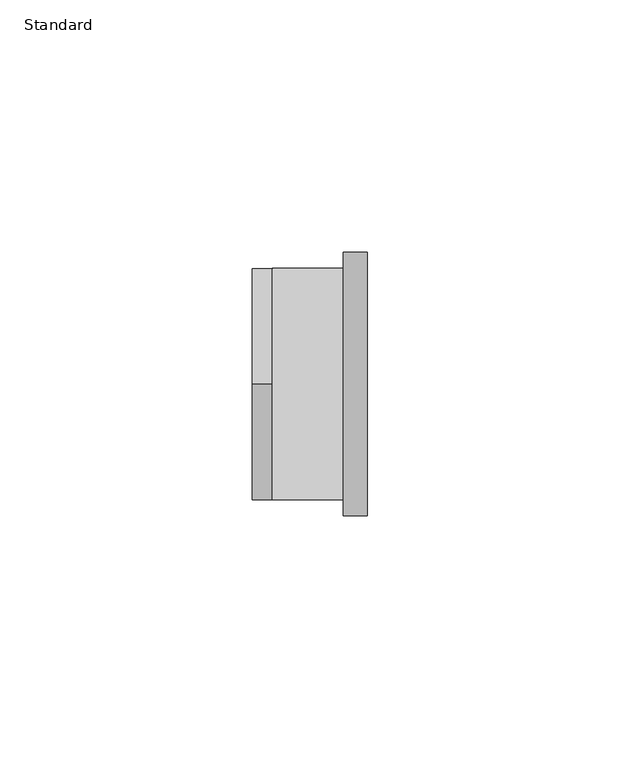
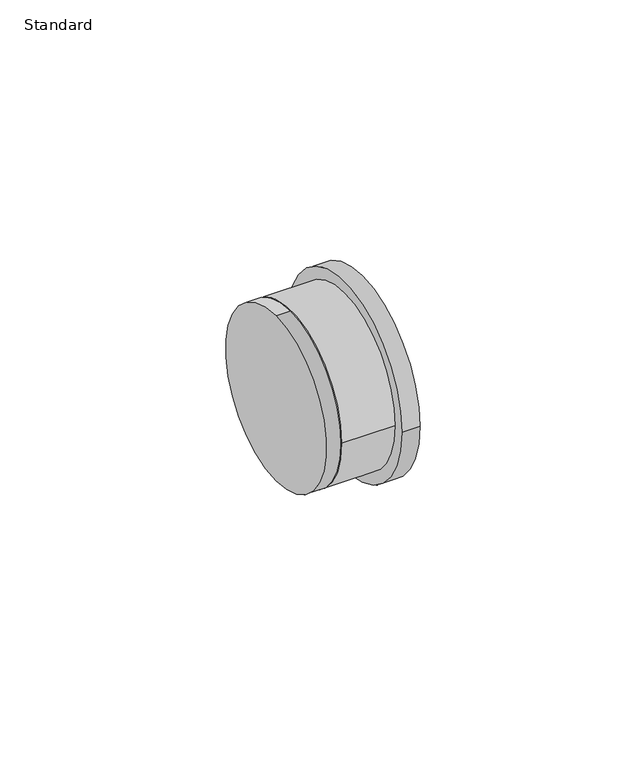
"""IFC4 building model written with IfcOpenShell, lengths in millimetres: pipe fitting geometry, Reducion Bushing_Lubrizol_CPVC_FlowGuard_MX : Standard."""

from ifc_helpers import new_model, si_unit, point, frame, origin, origin_2d, place, context, project, spatial, circle_curve, trimmed, segment, composite_curve, outline, extrude, source, transform, mapped, element, save


def standard_7ad60289(model_context):
    return source(origin(), model_context, "Body", "SweptSolid", [
        extrude(outline(composite_curve([segment(trimmed(circle_curve(origin_2d(), 22.99), [point((-22.99, 0.0))], [point((22.99, 0.0))], False, "CARTESIAN"), True, "CONTINUOUS"), segment(trimmed(circle_curve(origin_2d(), 22.99), [point((22.99, 0.0))], [point((-22.99, 0.0))], False, "CARTESIAN"), True, "CONTINUOUS")], self_intersect=False)), frame((4.0, 0.0, 0.0), z_axis=(1.0, 0.0, 0.0), x_axis=(0.0, 1.0, 0.0)), (0.0, 0.0, 1.0), 14.082),
        extrude(outline(composite_curve([segment(trimmed(circle_curve(origin_2d(), 26.11), [point((-26.11, 0.0))], [point((26.11, 0.0))], False, "CARTESIAN"), True, "CONTINUOUS"), segment(trimmed(circle_curve(origin_2d(), 26.11), [point((26.11, 0.0))], [point((-26.11, 0.0))], False, "CARTESIAN"), True, "CONTINUOUS")], self_intersect=False)), frame((18.082, 0.0, 0.0), z_axis=(1.0, 0.0, 0.0), x_axis=(0.0, 1.0, 0.0)), (0.0, 0.0, 1.0), 4.75),
        extrude(outline(composite_curve([segment(trimmed(circle_curve(origin_2d(), 22.99), [point((0.0, 22.99))], [point((0.0, -22.99))], False, "CARTESIAN"), True, "CONTINUOUS"), segment(trimmed(circle_curve(origin_2d(), 22.99), [point((0.0, -22.99))], [point((0.0, 22.99))], False, "CARTESIAN"), True, "CONTINUOUS")], self_intersect=False)), frame((0.0, 0.0, 0.0), z_axis=(1.0, 0.0, 0.0), x_axis=(0.0, 1.0, 0.0)), (0.0, 0.0, 1.0), 4.0),
    ])


if __name__ == "__main__":
    model = new_model("IFC4")
    model_context = context("Model", 3, world=origin())
    ifc_project = project(units=[si_unit("LENGTHUNIT", "METRE", prefix="MILLI")], contexts=[model_context])
    site = spatial("IfcSite", under=ifc_project)
    building = spatial("IfcBuilding", under=site)
    placement = place(None, origin())
    standard_shape = standard_7ad60289(model_context)
    element("IfcPipeFitting", 1, ObjectType="Reducion Bushing_Lubrizol_CPVC_FlowGuard_MX : Standard", at=placement, inside=building, context=model_context, shape_type="MappedRepresentation", body=[
        mapped(standard_shape, transform((0.0, 0.0, 0.0), x_axis=(1.0, 0.0, 0.0), y_axis=(0.0, 1.0, 0.0), z_axis=(0.0, 0.0, 1.0))),
    ])
    save(model, "model.ifc")
